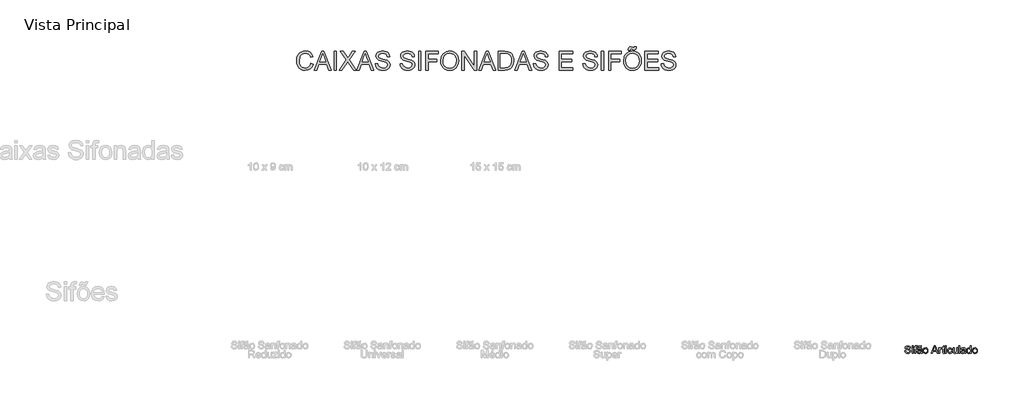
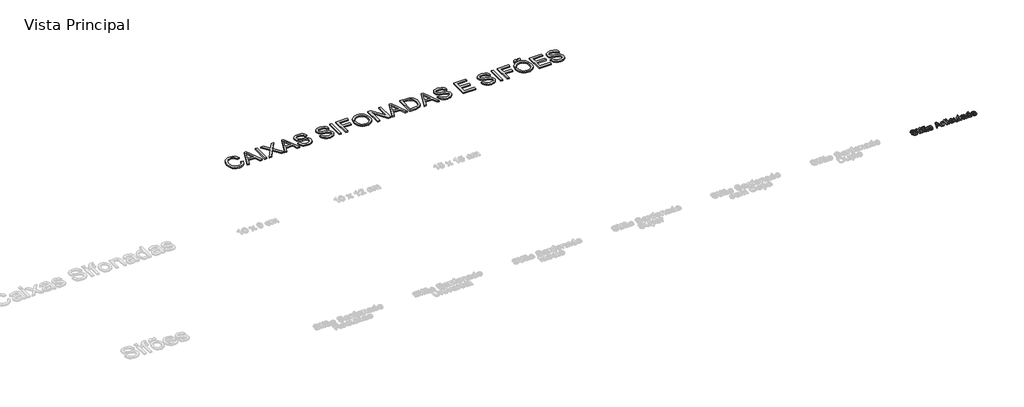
# One storey, part 5 of 5: 2 proxies.
"""IFC4 building model written with IfcOpenShell, lengths in millimetres."""

from ifc_helpers import new_model, si_unit, origin, origin_with_axes, place, context, project, spatial, polyline, outline, extrude, element, save

model = new_model("IFC4")

# Units and contexts
model_context = context("Model", 3, world=origin())
ifc_project = project(units=[si_unit("LENGTHUNIT", "METRE", prefix="MILLI")], contexts=[model_context])

# Site, building, storey
site = spatial("IfcSite", under=ifc_project)
building = spatial("IfcBuilding", under=site)
storey = spatial("IfcBuildingStorey", under=building, Name="Vista Principal", Elevation=0.0)

# Proxies
placement = place(None, origin())
element("IfcBuildingElementProxy", 1, Name="Subtextos", ObjectType="Subtextos", at=placement, inside=storey, context=model_context, shape_type="SweptSolid", body=[
    extrude(outline(polyline([(-1250.4534786, 442.8907044), (-1231.6179204, 438.0346621), (-1240.3091325, 416.0859026), (-1253.9483575, 400.0508461), (-1271.8642107, 390.2421924), (-1293.3853074, 386.9726412), (-1315.2328994, 389.4466476), (-1332.583134, 396.8686668), (-1345.8820681, 408.9811815), (-1355.5757587, 425.5266743), (-1361.4940603, 444.9784348), (-1363.4668275, 465.8097527), (-1361.2365429, 487.7815049), (-1354.5456891, 506.7550188), (-1343.743754, 522.1278877), (-1329.1802255, 533.2977047), (-1311.9081658, 540.0989231), (-1292.9806372, 542.3659959), (-1272.3286617, 539.432137), (-1255.2543386, 530.6305603), (-1242.2910968, 516.5038917), (-1233.9723652, 497.5947571), (-1252.8079233, 493.1065968), (-1259.3378287, 506.8423908), (-1268.2589671, 516.2647684), (-1279.6817031, 521.7140204), (-1293.7164012, 523.5304378), (-1309.8940119, 521.5162839), (-1323.183749, 515.4738221), (-1333.2683142, 506.0376489), (-1339.8304093, 493.8423608), (-1344.6312693, 465.8465409), (-1343.2103251, 448.4457226), (-1338.9474925, 433.399349), (-1331.6818231, 421.2822357), (-1321.2523685, 412.6691985), (-1308.7489792, 407.5234491), (-1295.2615056, 405.8081993), (-1279.5391488, 408.14425), (-1266.4379512, 415.152402), (-1256.5465241, 426.7590789), (-1250.4534786, 442.8907044)])), origin_with_axes(), (0.0, 0.0, 1.0), 10.0),
    extrude(outline(polyline([(-1223.2669991, 389.3270859), (-1163.1182929, 540.0115512), (-1147.0786379, 540.0115512), (-1086.9299317, 389.3270859), (-1106.8323476, 389.3270859), (-1124.0860132, 436.4159813), (-1186.1477058, 436.4159813), (-1203.3645832, 389.3270859), (-1223.2669991, 389.3270859)]), holes=[polyline([(-1179.2315243, 455.2515395), (-1130.9654065, 455.2515395), (-1144.5402521, 492.2972564), (-1155.0984654, 521.175993), (-1164.4794563, 495.5346179), (-1179.2315243, 455.2515395)])]), origin_with_axes(), (0.0, 0.0, 1.0), 10.0),
    extrude(outline(polyline([(-1064.4523418, 389.3270859), (-1064.4523418, 540.0115512), (-1045.6167836, 540.0115512), (-1045.6167836, 389.3270859), (-1064.4523418, 389.3270859)])), origin_with_axes(), (0.0, 0.0, 1.0), 10.0),
    extrude(outline(polyline([(-1024.4267807, 389.3270859), (-966.3382137, 471.4383473), (-1015.0090016, 540.0115512), (-992.4210471, 540.0115512), (-965.0138385, 501.4207299), (-955.7800004, 486.3743563), (-944.9642698, 501.6782473), (-917.8513667, 540.0115512), (-894.9323184, 540.0115512), (-943.6031064, 471.2176181), (-885.5145393, 389.3270859), (-908.1024938, 389.3270859), (-946.8036797, 443.920774), (-954.8602954, 455.2515395), (-963.7262515, 442.817128), (-1001.5077324, 389.3270859), (-1024.4267807, 389.3270859)])), origin_with_axes(), (0.0, 0.0, 1.0), 10.0),
    extrude(outline(polyline([(-884.2269524, 389.3270859), (-824.0782461, 540.0115512), (-808.0385912, 540.0115512), (-747.8898849, 389.3270859), (-767.7923009, 389.3270859), (-785.0459665, 436.4159813), (-847.107659, 436.4159813), (-864.3245364, 389.3270859), (-884.2269524, 389.3270859)]), holes=[polyline([(-840.1914775, 455.2515395), (-791.9253598, 455.2515395), (-805.5002054, 492.2972564), (-816.0584186, 521.175993), (-825.4394095, 495.5346179), (-840.1914775, 455.2515395)])]), origin_with_axes(), (0.0, 0.0, 1.0), 10.0),
    extrude(outline(polyline([(-734.8300741, 441.1248709), (-715.994516, 441.1248709), (-709.924463, 422.2709186), (-695.0988186, 410.351542), (-672.5108641, 405.8081993), (-652.8291774, 409.247896), (-640.1188545, 418.7024633), (-635.9433938, 431.3392098), (-639.0703908, 443.0930395), (-651.8726842, 451.6462959), (-679.2982869, 458.8383889), (-708.8208171, 468.1274093), (-724.8420779, 482.1437133), (-730.1211846, 500.8689069), (-728.4887082, 511.9007682), (-723.5912792, 522.1876685), (-715.5576561, 530.9064718), (-704.5165977, 537.2340421), (-676.5943543, 542.3659959), (-646.7959127, 536.9949188), (-635.3731767, 530.3638458), (-626.9302849, 521.2127812), (-621.5867989, 510.111942), (-619.4622804, 497.6315453), (-638.2978386, 497.6315453), (-641.7559293, 508.8703403), (-648.9664164, 516.9821383), (-660.2328025, 521.8933629), (-675.8585903, 523.5304378), (-691.85226, 521.911757), (-702.8243405, 517.0557147), (-709.1703049, 509.9096069), (-711.2856264, 501.4207299), (-709.7865073, 494.1826516), (-705.2891499, 488.360919), (-674.5342151, 477.839494), (-641.2041063, 468.3849267), (-630.4665506, 461.5515186), (-622.9755535, 453.1178239), (-618.5747651, 443.175813), (-617.1078357, 431.8174564), (-618.7954943, 420.2061809), (-623.8584703, 409.2846842), (-632.0898299, 399.8852992), (-643.2826396, 392.840359), (-656.7425221, 388.4395706), (-671.7751001, 386.9726412), (-690.2289807, 388.5545337), (-705.4179086, 393.3002115), (-717.5166277, 401.2280685), (-726.699882, 412.3564988), (-732.595191, 425.9129504), (-734.8300741, 441.1248709)])), origin_with_axes(), (0.0, 0.0, 1.0), 10.0),
    extrude(outline(polyline([(-537.0567135, 441.1248709), (-518.2211554, 441.1248709), (-512.1511024, 422.2709186), (-497.325458, 410.351542), (-474.7375035, 405.8081993), (-455.0558168, 409.247896), (-442.3454938, 418.7024633), (-438.1700332, 431.3392098), (-441.2970302, 443.0930395), (-454.0993236, 451.6462959), (-481.5249263, 458.8383889), (-511.0474564, 468.1274093), (-527.0687173, 482.1437133), (-532.347824, 500.8689069), (-530.7153476, 511.9007682), (-525.8179186, 522.1876685), (-517.7842955, 530.9064718), (-506.7432371, 537.2340421), (-478.8209937, 542.3659959), (-449.0225521, 536.9949188), (-437.5998161, 530.3638458), (-429.1569243, 521.2127812), (-423.8134383, 510.111942), (-421.6889198, 497.6315453), (-440.524478, 497.6315453), (-443.9825687, 508.8703403), (-451.1930558, 516.9821383), (-462.4594419, 521.8933629), (-478.0852297, 523.5304378), (-494.0788994, 521.911757), (-505.0509799, 517.0557147), (-511.3969443, 509.9096069), (-513.5122658, 501.4207299), (-512.0131467, 494.1826516), (-507.5157893, 488.360919), (-476.7608545, 477.839494), (-443.4307457, 468.3849267), (-432.69319, 461.5515186), (-425.2021929, 453.1178239), (-420.8014045, 443.175813), (-419.334475, 431.8174564), (-421.0221337, 420.2061809), (-426.0851097, 409.2846842), (-434.3164693, 399.8852992), (-445.509279, 392.840359), (-458.9691615, 388.4395706), (-474.0017395, 386.9726412), (-492.4556201, 388.5545337), (-507.644548, 393.3002115), (-519.7432671, 401.2280685), (-528.9265214, 412.3564988), (-534.8218304, 425.9129504), (-537.0567135, 441.1248709)])), origin_with_axes(), (0.0, 0.0, 1.0), 10.0),
    extrude(outline(polyline([(-388.726693, 389.3270859), (-388.726693, 540.0115512), (-369.8911349, 540.0115512), (-369.8911349, 389.3270859), (-388.726693, 389.3270859)])), origin_with_axes(), (0.0, 0.0, 1.0), 10.0),
    extrude(outline(polyline([(-332.2200186, 389.3270859), (-332.2200186, 540.0115512), (-230.9788935, 540.0115512), (-230.9788935, 521.175993), (-313.3844604, 521.175993), (-313.3844604, 476.4415424), (-242.7511174, 476.4415424), (-242.7511174, 457.6059842), (-313.3844604, 457.6059842), (-313.3844604, 389.3270859), (-332.2200186, 389.3270859)])), origin_with_axes(), (0.0, 0.0, 1.0), 10.0),
    extrude(outline(polyline([(-212.1433354, 462.6827558), (-207.1217461, 496.0036675), (-200.8447596, 509.6221991), (-192.0569784, 521.2127812), (-169.0551567, 537.0776923), (-140.2224053, 542.3659959), (-120.4579451, 539.8827925), (-102.73523, 532.4331821), (-88.0199502, 520.5413966), (-77.2777959, 504.7316678), (-70.7111023, 485.767351), (-68.5222044, 464.4118012), (-70.8260654, 442.7711428), (-77.7376484, 423.5401115), (-88.8752758, 407.7027916), (-103.8572701, 396.2432674), (-121.4282339, 389.2902977), (-140.3327699, 386.9726412), (-160.4007327, 389.5340196), (-178.2246154, 397.2181547), (-192.903107, 409.3306694), (-203.5348967, 425.1771864), (-209.9912257, 443.4103378), (-212.1433354, 462.6827558)]), holes=[polyline([(-193.3077772, 462.4988148), (-189.5415853, 438.9267759), (-178.2430095, 420.9649375), (-161.2606569, 409.5973839), (-140.4431345, 405.8081993), (-119.3221095, 409.6341721), (-102.3121657, 421.1120903), (-91.0963634, 439.6257517), (-87.3577626, 464.558954), (-88.9580493, 481.2332054), (-93.7589093, 495.6449825), (-101.6361825, 507.431002), (-112.4657088, 516.2279802), (-125.5301181, 521.7048234), (-140.1120407, 523.5304378), (-160.3731416, 520.0125662), (-177.599216, 509.4589515), (-189.3806369, 490.6831741), (-193.3077772, 462.4988148)])]), origin_with_axes(), (0.0, 0.0, 1.0), 10.0),
    extrude(outline(polyline([(-42.623312, 389.3270859), (-42.623312, 540.0115512), (-22.4633787, 540.0115512), (56.2633683, 420.6338437), (56.2633683, 540.0115512), (75.0989265, 540.0115512), (75.0989265, 389.3270859), (54.9389931, 389.3270859), (-23.7877538, 508.7415816), (-23.7877538, 389.3270859), (-42.623312, 389.3270859)])), origin_with_axes(), (0.0, 0.0, 1.0), 10.0),
    extrude(outline(polyline([(90.5131821, 389.3270859), (150.6618883, 540.0115512), (166.7015433, 540.0115512), (226.8502495, 389.3270859), (206.9478335, 389.3270859), (189.694168, 436.4159813), (127.6324754, 436.4159813), (110.415598, 389.3270859), (90.5131821, 389.3270859)]), holes=[polyline([(134.5486569, 455.2515395), (182.8147747, 455.2515395), (169.239929, 492.2972564), (158.6817158, 521.175993), (149.3007249, 495.5346179), (134.5486569, 455.2515395)])]), origin_with_axes(), (0.0, 0.0, 1.0), 10.0),
    extrude(outline(polyline([(246.9733946, 389.3270859), (246.9733946, 540.0115512), (298.9551205, 540.0115512), (325.8472944, 537.8410474), (347.9937905, 527.0621049), (358.414048, 515.5841867), (365.8360673, 501.3103653), (370.2782423, 484.5165522), (371.7589674, 465.4786589), (367.7490536, 435.073212), (357.4483578, 413.129051), (343.6895711, 399.4622349), (325.6817475, 391.9022599), (301.4567181, 389.3270859), (246.9733946, 389.3270859)]), holes=[polyline([(265.8089528, 408.1626441), (299.1390615, 408.1626441), (323.382485, 410.8849709), (337.3620008, 418.5737046), (348.821525, 437.280504), (352.9234092, 465.7729645), (350.9138538, 486.3007799), (344.8851876, 501.4575181), (335.9778448, 511.8685785), (325.3322596, 518.1593606), (298.6240267, 521.175993), (265.8089528, 521.175993), (265.8089528, 408.1626441)])]), origin_with_axes(), (0.0, 0.0, 1.0), 10.0),
    extrude(outline(polyline([(380.1098887, 389.3270859), (440.2585949, 540.0115512), (456.2982499, 540.0115512), (516.4469561, 389.3270859), (496.5445401, 389.3270859), (479.2908746, 436.4159813), (417.229182, 436.4159813), (400.0123046, 389.3270859), (380.1098887, 389.3270859)]), holes=[polyline([(424.1453635, 455.2515395), (472.4114813, 455.2515395), (458.8366356, 492.2972564), (448.2784224, 521.175993), (438.8974315, 495.5346179), (424.1453635, 455.2515395)])]), origin_with_axes(), (0.0, 0.0, 1.0), 10.0),
    extrude(outline(polyline([(529.5067669, 441.1248709), (548.3423251, 441.1248709), (554.412378, 422.2709186), (569.2380224, 410.351542), (591.8259769, 405.8081993), (611.5076636, 409.247896), (624.2179866, 418.7024633), (628.3934472, 431.3392098), (625.2664503, 443.0930395), (612.4641568, 451.6462959), (585.0385541, 458.8383889), (555.516024, 468.1274093), (539.4947631, 482.1437133), (534.2156565, 500.8689069), (535.8481328, 511.9007682), (540.7455619, 522.1876685), (548.7791849, 530.9064718), (559.8202433, 537.2340421), (587.7424867, 542.3659959), (617.5409284, 536.9949188), (628.9636643, 530.3638458), (637.4065561, 521.2127812), (642.7500421, 510.111942), (644.8745606, 497.6315453), (626.0390024, 497.6315453), (622.5809117, 508.8703403), (615.3704246, 516.9821383), (604.1040385, 521.8933629), (588.4782507, 523.5304378), (572.484581, 521.911757), (561.5125005, 517.0557147), (555.1665361, 509.9096069), (553.0512146, 501.4207299), (554.5503337, 494.1826516), (559.0476911, 488.360919), (589.8026259, 477.839494), (623.1327347, 468.3849267), (633.8702904, 461.5515186), (641.3612875, 453.1178239), (645.7620759, 443.175813), (647.2290054, 431.8174564), (645.5413467, 420.2061809), (640.4783708, 409.2846842), (632.2470111, 399.8852992), (621.0542014, 392.840359), (607.5943189, 388.4395706), (592.5617409, 386.9726412), (574.1078603, 388.5545337), (558.9189324, 393.3002115), (546.8202133, 401.2280685), (537.636959, 412.3564988), (531.74165, 425.9129504), (529.5067669, 441.1248709)])), origin_with_axes(), (0.0, 0.0, 1.0), 10.0),
    extrude(outline(polyline([(734.3434618, 389.3270859), (734.3434618, 540.0115512), (842.6479212, 540.0115512), (842.6479212, 521.175993), (753.17902, 521.175993), (753.17902, 476.4415424), (837.9390317, 476.4415424), (837.9390317, 457.6059842), (753.17902, 457.6059842), (753.17902, 408.1626441), (845.002366, 408.1626441), (845.002366, 389.3270859), (734.3434618, 389.3270859)])), origin_with_axes(), (0.0, 0.0, 1.0), 10.0),
    extrude(outline(polyline([(925.0534881, 441.1248709), (943.8890463, 441.1248709), (949.9590992, 422.2709186), (964.7847436, 410.351542), (987.3726981, 405.8081993), (1007.0543849, 409.247896), (1019.7647078, 418.7024633), (1023.9401684, 431.3392098), (1020.8131715, 443.0930395), (1008.010878, 451.6462959), (980.5852753, 458.8383889), (951.0627452, 468.1274093), (935.0414843, 482.1437133), (929.7623777, 500.8689069), (931.394854, 511.9007682), (936.2922831, 522.1876685), (944.3259061, 530.9064718), (955.3669645, 537.2340421), (983.289208, 542.3659959), (1013.0876496, 536.9949188), (1024.5103855, 530.3638458), (1032.9532773, 521.2127812), (1038.2967633, 510.111942), (1040.4212818, 497.6315453), (1021.5857237, 497.6315453), (1018.1276329, 508.8703403), (1010.9171458, 516.9821383), (999.6507597, 521.8933629), (984.024972, 523.5304378), (968.0313022, 521.911757), (957.0592217, 517.0557147), (950.7132573, 509.9096069), (948.5979358, 501.4207299), (950.0970549, 494.1826516), (954.5944123, 488.360919), (985.3493471, 477.839494), (1018.6794559, 468.3849267), (1029.4170116, 461.5515186), (1036.9080088, 453.1178239), (1041.3087971, 443.175813), (1042.7757266, 431.8174564), (1041.0880679, 420.2061809), (1036.025092, 409.2846842), (1027.7937323, 399.8852992), (1016.6009226, 392.840359), (1003.1410401, 388.4395706), (988.1084621, 386.9726412), (969.6545815, 388.5545337), (954.4656536, 393.3002115), (942.3669345, 401.2280685), (933.1836802, 412.3564988), (927.2883712, 425.9129504), (925.0534881, 441.1248709)])), origin_with_axes(), (0.0, 0.0, 1.0), 10.0),
    extrude(outline(polyline([(1073.3835086, 389.3270859), (1073.3835086, 540.0115512), (1092.2190667, 540.0115512), (1092.2190667, 389.3270859), (1073.3835086, 389.3270859)])), origin_with_axes(), (0.0, 0.0, 1.0), 10.0),
    extrude(outline(polyline([(1129.890183, 389.3270859), (1129.890183, 540.0115512), (1231.1313081, 540.0115512), (1231.1313081, 521.175993), (1148.7257412, 521.175993), (1148.7257412, 476.4415424), (1219.3590843, 476.4415424), (1219.3590843, 457.6059842), (1148.7257412, 457.6059842), (1148.7257412, 389.3270859), (1129.890183, 389.3270859)])), origin_with_axes(), (0.0, 0.0, 1.0), 10.0),
    extrude(outline(polyline([(1249.9668663, 462.6827558), (1254.9884555, 496.0036675), (1261.265442, 509.6221991), (1270.0532232, 521.2127812), (1293.055045, 537.0776923), (1321.8877963, 542.3659959), (1341.6522565, 539.8827925), (1359.3749716, 532.4331821), (1374.0902514, 520.5413966), (1384.8324057, 504.7316678), (1391.3990993, 485.767351), (1393.5879972, 464.4118012), (1391.2841362, 442.7711428), (1384.3725532, 423.5401115), (1373.2349258, 407.7027916), (1358.2529315, 396.2432674), (1340.6819678, 389.2902977), (1321.7774317, 386.9726412), (1301.7094689, 389.5340196), (1283.8855862, 397.2181547), (1269.2070946, 409.3306694), (1258.575305, 425.1771864), (1252.1189759, 443.4103378), (1249.9668663, 462.6827558)]), holes=[polyline([(1268.8024244, 462.4988148), (1272.5686163, 438.9267759), (1283.8671921, 420.9649375), (1300.8495447, 409.5973839), (1321.6670671, 405.8081993), (1342.7880922, 409.6341721), (1359.7980359, 421.1120903), (1371.0138383, 439.6257517), (1374.752439, 464.558954), (1373.1521524, 481.2332054), (1368.3512923, 495.6449825), (1360.4740191, 507.431002), (1349.6444929, 516.2279802), (1336.5800835, 521.7048234), (1321.9981609, 523.5304378), (1301.73706, 520.0125662), (1284.5109856, 509.4589515), (1272.7295647, 490.6831741), (1268.8024244, 462.4988148)])]), origin_with_axes(), (0.0, 0.0, 1.0), 10.0),
    extrude(outline(polyline([(1287.6379826, 549.4293302), (1289.0635253, 561.008416), (1293.4873063, 569.9939338), (1300.1551675, 575.760484), (1308.4601035, 577.6826675), (1323.5432653, 571.6126145), (1331.1584226, 568.2648884), (1335.1499422, 570.1594807), (1337.0813227, 577.6826675), (1353.5624361, 577.6826675), (1351.9207627, 565.3218324), (1347.5843537, 556.4926645), (1341.1326232, 551.1951638), (1333.1449854, 549.4293302), (1318.2457646, 555.1682894), (1310.2995135, 558.8471093), (1305.8113531, 556.4558763), (1304.119096, 549.4293302), (1287.6379826, 549.4293302)])), origin_with_axes(), (0.0, 0.0, 1.0), 10.0),
    extrude(outline(polyline([(1419.4868896, 389.3270859), (1419.4868896, 540.0115512), (1527.791349, 540.0115512), (1527.791349, 521.175993), (1438.3224478, 521.175993), (1438.3224478, 476.4415424), (1523.0824595, 476.4415424), (1523.0824595, 457.6059842), (1438.3224478, 457.6059842), (1438.3224478, 408.1626441), (1530.1457938, 408.1626441), (1530.1457938, 389.3270859), (1419.4868896, 389.3270859)])), origin_with_axes(), (0.0, 0.0, 1.0), 10.0),
    extrude(outline(polyline([(1551.3357967, 441.1248709), (1570.1713549, 441.1248709), (1576.2414078, 422.2709186), (1591.0670522, 410.351542), (1613.6550067, 405.8081993), (1633.3366934, 409.247896), (1646.0470164, 418.7024633), (1650.222477, 431.3392098), (1647.0954801, 443.0930395), (1634.2931866, 451.6462959), (1606.8675839, 458.8383889), (1577.3450538, 468.1274093), (1561.3237929, 482.1437133), (1556.0446863, 500.8689069), (1557.6771626, 511.9007682), (1562.5745917, 522.1876685), (1570.6082147, 530.9064718), (1581.6492731, 537.2340421), (1609.5715166, 542.3659959), (1639.3699582, 536.9949188), (1650.7926941, 530.3638458), (1659.2355859, 521.2127812), (1664.5790719, 510.111942), (1666.7035904, 497.6315453), (1647.8680322, 497.6315453), (1644.4099415, 508.8703403), (1637.1994544, 516.9821383), (1625.9330683, 521.8933629), (1610.3072805, 523.5304378), (1594.3136108, 521.911757), (1583.3415303, 517.0557147), (1576.9955659, 509.9096069), (1574.8802444, 501.4207299), (1576.3793635, 494.1826516), (1580.8767209, 488.360919), (1611.6316557, 477.839494), (1644.9617645, 468.3849267), (1655.6993202, 461.5515186), (1663.1903173, 453.1178239), (1667.5911057, 443.175813), (1669.0580352, 431.8174564), (1667.3703765, 420.2061809), (1662.3074006, 409.2846842), (1654.0760409, 399.8852992), (1642.8832312, 392.840359), (1629.4233487, 388.4395706), (1614.3907707, 386.9726412), (1595.9368901, 388.5545337), (1580.7479622, 393.3002115), (1568.6492431, 401.2280685), (1559.4659888, 412.3564988), (1553.5706798, 425.9129504), (1551.3357967, 441.1248709)])), origin_with_axes(), (0.0, 0.0, 1.0), 10.0),
])
element("IfcBuildingElementProxy", 2, Name="Texto", ObjectType="Texto", at=placement, inside=storey, context=model_context, shape_type="SweptSolid", body=[
    extrude(outline(polyline([(3499.7850799, -1855.2811878), (3507.3193032, -1855.2811878), (3509.7473244, -1862.8227687), (3515.6775821, -1867.5905194), (3524.7127639, -1869.4078564), (3532.5854386, -1868.0319777), (3537.6695678, -1864.2501508), (3539.339752, -1859.1954522), (3538.0889533, -1854.4939203), (3532.9680359, -1851.0726178), (3521.9977948, -1848.1957806), (3510.1887827, -1844.4801724), (3503.7802784, -1838.8736508), (3501.6686357, -1831.3835734), (3504.2805979, -1822.8560687), (3511.9104705, -1816.8375193), (3523.0793679, -1814.7847378), (3534.9987445, -1816.9331686), (3542.9449956, -1823.2460237), (3545.9321974, -1832.678518), (3538.3979741, -1832.678518), (3534.130543, -1824.9382808), (3523.3736735, -1822.318961), (3512.5873734, -1824.9088503), (3509.202859, -1831.1628442), (3511.6014496, -1836.3867685), (3523.9034235, -1840.5953385), (3537.235467, -1844.3771655), (3544.5268882, -1850.4840066), (3546.8739753, -1859.0041536), (3544.1737215, -1868.0172625), (3536.4040537, -1874.5949925), (3525.0070695, -1876.9420797), (3511.5499461, -1874.4110515), (3503.0371568, -1866.7885366), (3499.7850799, -1855.2811878)])), origin_with_axes(), (0.0, 0.0, 1.0), 10.0),
    extrude(outline(polyline([(3557.2335323, -1876.0003018), (3557.2335323, -1831.7367401), (3564.7677555, -1831.7367401), (3564.7677555, -1876.0003018), (3557.2335323, -1876.0003018)])), origin_with_axes(), (0.0, 0.0, 1.0), 10.0),
    extrude(outline(polyline([(3557.2335323, -1823.2607389), (3557.2335323, -1815.7265157), (3564.7677555, -1815.7265157), (3564.7677555, -1823.2607389), (3557.2335323, -1823.2607389)])), origin_with_axes(), (0.0, 0.0, 1.0), 10.0),
    extrude(outline(polyline([(3577.9526463, -1876.0003018), (3577.9526463, -1839.2709634), (3571.3602009, -1839.2709634), (3571.3602009, -1831.7367401), (3577.9526463, -1831.7367401), (3577.9526463, -1827.2780103), (3578.7472714, -1820.9945858), (3582.6026747, -1816.5064255), (3590.1957591, -1814.7847378), (3597.0677947, -1815.6087934), (3595.9641487, -1822.6721277), (3591.6231412, -1822.318961), (3586.8774635, -1823.5697598), (3585.4868695, -1828.2345035), (3585.4868695, -1831.7367401), (3593.9628707, -1831.7367401), (3593.9628707, -1839.2709634), (3585.4868695, -1839.2709634), (3585.4868695, -1876.0003018), (3577.9526463, -1876.0003018)])), origin_with_axes(), (0.0, 0.0, 1.0), 10.0),
    extrude(outline(polyline([(3628.8086533, -1870.3496343), (3621.5025168, -1875.4558364), (3613.4311859, -1876.9420797), (3602.4903753, -1873.3662667), (3598.6717602, -1864.2280779), (3600.1138576, -1858.2683896), (3603.9030422, -1853.9420973), (3609.17847, -1851.4699303), (3615.697339, -1850.3368538), (3628.7645074, -1847.7469645), (3628.8086533, -1846.0694226), (3626.7337988, -1840.5070469), (3618.4049504, -1838.3291855), (3610.7824355, -1839.7786405), (3607.1477614, -1844.9216308), (3599.6135381, -1843.9798529), (3602.8729726, -1836.622213), (3609.4359874, -1832.310636), (3619.3761589, -1830.7949622), (3628.50699, -1832.1340527), (3633.6646956, -1835.4964941), (3635.9749945, -1840.6100538), (3636.3428765, -1847.2024992), (3636.3428765, -1856.5761324), (3636.7254738, -1869.6653738), (3638.2264323, -1876.0003018), (3630.6922091, -1876.0003018), (3628.8086533, -1870.3496343)]), holes=[polyline([(3628.8086533, -1855.2811878), (3616.6538321, -1857.5914867), (3610.1717514, -1858.8128549), (3607.2360531, -1860.7994177), (3606.2059835, -1863.6983278), (3608.4500637, -1867.7744603), (3615.0351514, -1869.4078564), (3622.6576663, -1867.6052346), (3627.5725698, -1863.2421542), (3628.7645074, -1857.4149034), (3628.8086533, -1855.2811878)])]), origin_with_axes(), (0.0, 0.0, 1.0), 10.0),
    extrude(outline(polyline([(3605.2642056, -1827.0278506), (3607.6039351, -1818.8020091), (3613.5930539, -1815.7265157), (3619.6263187, -1818.1545368), (3622.6723816, -1819.4936273), (3624.2689894, -1818.7357904), (3625.0415416, -1815.7265157), (3631.633987, -1815.7265157), (3629.242754, -1824.2025168), (3623.4670067, -1827.0278506), (3617.5073184, -1824.7322669), (3614.3288179, -1823.2607389), (3612.5335538, -1824.2172321), (3611.8566509, -1827.0278506), (3605.2642056, -1827.0278506)])), origin_with_axes(), (0.0, 0.0, 1.0), 10.0),
    extrude(outline(polyline([(3644.8188777, -1853.8685209), (3646.4485949, -1843.1962643), (3651.3377467, -1835.6951504), (3664.610929, -1830.7949622), (3672.5259102, -1832.2867237), (3678.8479623, -1836.7620082), (3682.9921529, -1843.8676489), (3684.3735498, -1853.2504792), (3681.9308134, -1866.6560991), (3674.8159756, -1874.2418258), (3664.610929, -1876.9420797), (3656.6002986, -1875.4558364), (3650.2856041, -1870.9971066), (3646.1855593, -1863.7424737), (3644.8188777, -1853.8685209)]), holes=[polyline([(3652.353101, -1853.8538057), (3655.8406223, -1865.5303802), (3664.610929, -1869.4078564), (3673.3518052, -1865.5083073), (3676.8393266, -1853.6183612), (3673.3297323, -1842.2066617), (3664.610929, -1838.3291855), (3655.8406223, -1842.1919464), (3652.353101, -1853.8538057)])]), origin_with_axes(), (0.0, 0.0, 1.0), 10.0),
    extrude(outline(polyline([(3710.3165881, -1876.0003018), (3734.3760706, -1815.7265157), (3740.7919326, -1815.7265157), (3764.8514151, -1876.0003018), (3756.8904487, -1876.0003018), (3749.9889825, -1857.1647436), (3725.1643054, -1857.1647436), (3718.2775545, -1876.0003018), (3710.3165881, -1876.0003018)]), holes=[polyline([(3727.930778, -1849.6305203), (3747.2372252, -1849.6305203), (3741.8072869, -1834.8122336), (3737.5840016, -1823.2607389), (3733.8316053, -1833.517289), (3727.930778, -1849.6305203)])]), origin_with_axes(), (0.0, 0.0, 1.0), 10.0),
    extrude(outline(polyline([(3771.9588952, -1876.0003018), (3771.9588952, -1831.7367401), (3778.5513406, -1831.7367401), (3778.5513406, -1838.2850396), (3783.2307996, -1832.2517749), (3787.9396891, -1830.7949622), (3795.5033429, -1833.1199764), (3792.9870301, -1839.8742898), (3787.6895293, -1838.3291855), (3783.4294558, -1839.8154287), (3780.7144867, -1843.9357071), (3779.4931185, -1852.7354444), (3779.4931185, -1876.0003018), (3771.9588952, -1876.0003018)])), origin_with_axes(), (0.0, 0.0, 1.0), 10.0),
    extrude(outline(polyline([(3816.2224569, -1869.7168773), (3817.1642348, -1876.221031), (3811.5282826, -1876.9420797), (3805.2154276, -1875.6912809), (3802.0663577, -1872.4097735), (3801.1540104, -1863.8601959), (3801.1540104, -1839.2709634), (3795.5033429, -1839.2709634), (3795.5033429, -1831.7367401), (3801.1540104, -1831.7367401), (3801.1540104, -1820.9798706), (3808.6882336, -1816.5505713), (3808.6882336, -1831.7367401), (3816.2224569, -1831.7367401), (3816.2224569, -1839.2709634), (3808.6882336, -1839.2709634), (3808.6882336, -1863.6394667), (3809.0855462, -1867.5243006), (3810.3731332, -1868.9001793), (3812.9409495, -1869.4078564), (3816.2224569, -1869.7168773)])), origin_with_axes(), (0.0, 0.0, 1.0), 10.0),
    extrude(outline(polyline([(3823.7566802, -1823.2607389), (3823.7566802, -1815.7265157), (3831.2909034, -1815.7265157), (3831.2909034, -1823.2607389), (3823.7566802, -1823.2607389)])), origin_with_axes(), (0.0, 0.0, 1.0), 10.0),
    extrude(outline(polyline([(3823.7566802, -1876.0003018), (3823.7566802, -1831.7367401), (3831.2909034, -1831.7367401), (3831.2909034, -1876.0003018), (3823.7566802, -1876.0003018)])), origin_with_axes(), (0.0, 0.0, 1.0), 10.0),
    extrude(outline(polyline([(3870.8455755, -1859.9900773), (3878.3797988, -1860.9318552), (3872.3318188, -1872.6967214), (3860.3830116, -1876.9420797), (3852.3687023, -1875.4613546), (3846.1018325, -1871.0191795), (3842.05697, -1863.8105318), (3840.7086825, -1854.030389), (3843.0116238, -1841.5150435), (3850.0308122, -1833.4731431), (3860.2800046, -1830.7949622), (3871.73585, -1834.4737821), (3877.4380209, -1844.9216308), (3869.9037976, -1845.8634087), (3866.4089187, -1840.2200989), (3860.3388658, -1838.3291855), (3851.6053472, -1842.0521512), (3848.2429058, -1853.8243751), (3851.5317708, -1865.7069635), (3860.1328518, -1869.4078564), (3867.2329743, -1867.0975575), (3870.8455755, -1859.9900773)])), origin_with_axes(), (0.0, 0.0, 1.0), 10.0),
    extrude(outline(polyline([(3913.2255814, -1876.0003018), (3913.2255814, -1868.3925021), (3907.3247542, -1874.8046853), (3899.6286628, -1876.9420797), (3892.5432556, -1875.4411211), (3887.6577827, -1871.6740095), (3885.4137025, -1866.126349), (3884.9722442, -1859.1218758), (3884.9722442, -1831.7367401), (3892.5064674, -1831.7367401), (3892.5064674, -1855.5754934), (3892.9626411, -1863.2568694), (3895.9424852, -1867.7671027), (3901.5563645, -1869.4078564), (3907.8471466, -1867.7303145), (3912.0042132, -1863.1612201), (3913.2255814, -1854.766153), (3913.2255814, -1831.7367401), (3920.7598046, -1831.7367401), (3920.7598046, -1876.0003018), (3913.2255814, -1876.0003018)])), origin_with_axes(), (0.0, 0.0, 1.0), 10.0),
    extrude(outline(polyline([(3931.1193616, -1876.0003018), (3931.1193616, -1815.7265157), (3938.6535849, -1815.7265157), (3938.6535849, -1876.0003018), (3931.1193616, -1876.0003018)])), origin_with_axes(), (0.0, 0.0, 1.0), 10.0),
    extrude(outline(polyline([(3978.208257, -1870.3496343), (3970.9021206, -1875.4558364), (3962.8307896, -1876.9420797), (3951.8899791, -1873.3662667), (3948.071364, -1864.2280779), (3949.5134614, -1858.2683896), (3953.3026459, -1853.9420973), (3958.5780737, -1851.4699303), (3965.0969427, -1850.3368538), (3978.1641112, -1847.7469645), (3978.208257, -1846.0694226), (3976.1334026, -1840.5070469), (3967.8045542, -1838.3291855), (3960.1820392, -1839.7786405), (3956.5473651, -1844.9216308), (3949.0131419, -1843.9798529), (3952.2725763, -1836.622213), (3958.8355911, -1832.310636), (3968.7757627, -1830.7949622), (3977.9065938, -1832.1340527), (3983.0642993, -1835.4964941), (3985.3745983, -1840.6100538), (3985.7424803, -1847.2024992), (3985.7424803, -1856.5761324), (3986.1250775, -1869.6653738), (3987.6260361, -1876.0003018), (3980.0918128, -1876.0003018), (3978.208257, -1870.3496343)]), holes=[polyline([(3978.208257, -1855.2811878), (3966.0534359, -1857.5914867), (3959.5713551, -1858.8128549), (3956.6356568, -1860.7994177), (3955.6055872, -1863.6983278), (3957.8496674, -1867.7744603), (3964.4347551, -1869.4078564), (3972.05727, -1867.6052346), (3976.9721735, -1863.2421542), (3978.1641112, -1857.4149034), (3978.208257, -1855.2811878)])]), origin_with_axes(), (0.0, 0.0, 1.0), 10.0),
    extrude(outline(polyline([(4023.4135966, -1876.0003018), (4023.4135966, -1868.8928216), (4018.4287955, -1874.9297652), (4011.5383658, -1876.9420797), (4002.2088784, -1874.0284543), (3995.616433, -1865.8982622), (3993.2767035, -1853.9126668), (3995.432492, -1841.9197137), (4001.8924999, -1833.6644418), (4011.5089352, -1830.7949622), (4018.4545473, -1832.8477437), (4023.4135966, -1838.1820327), (4023.4135966, -1815.7265157), (4030.9478198, -1815.7265157), (4030.9478198, -1876.0003018), (4023.4135966, -1876.0003018)]), holes=[polyline([(4000.8109268, -1853.8832362), (4004.2101564, -1865.5450955), (4012.2299839, -1869.4078564), (4020.1541621, -1865.7216788), (4023.4135966, -1854.4571321), (4020.095301, -1842.2287346), (4011.920963, -1838.3291855), (4003.9894272, -1842.0742242), (4000.8109268, -1853.8832362)])]), origin_with_axes(), (0.0, 0.0, 1.0), 10.0),
    extrude(outline(polyline([(4040.3655989, -1853.8685209), (4041.9953162, -1843.1962643), (4046.8844679, -1835.6951504), (4060.1576503, -1830.7949622), (4068.0726314, -1832.2867237), (4074.3946835, -1836.7620082), (4078.5388741, -1843.8676489), (4079.920271, -1853.2504792), (4077.4775346, -1866.6560991), (4070.3626968, -1874.2418258), (4060.1576503, -1876.9420797), (4052.1470198, -1875.4558364), (4045.8323254, -1870.9971066), (4041.7322805, -1863.7424737), (4040.3655989, -1853.8685209)]), holes=[polyline([(4047.8998222, -1853.8538057), (4051.3873435, -1865.5303802), (4060.1576503, -1869.4078564), (4068.8985265, -1865.5083073), (4072.3860478, -1853.6183612), (4068.8764535, -1842.2066617), (4060.1576503, -1838.3291855), (4051.3873435, -1842.1919464), (4047.8998222, -1853.8538057)])]), origin_with_axes(), (0.0, 0.0, 1.0), 10.0),
])

save(model, "model.ifc")
